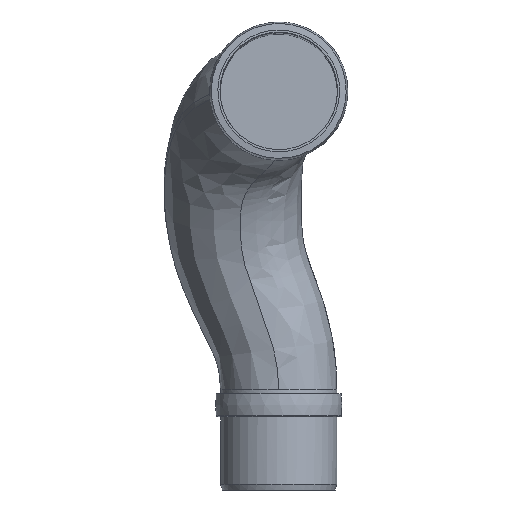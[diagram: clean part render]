
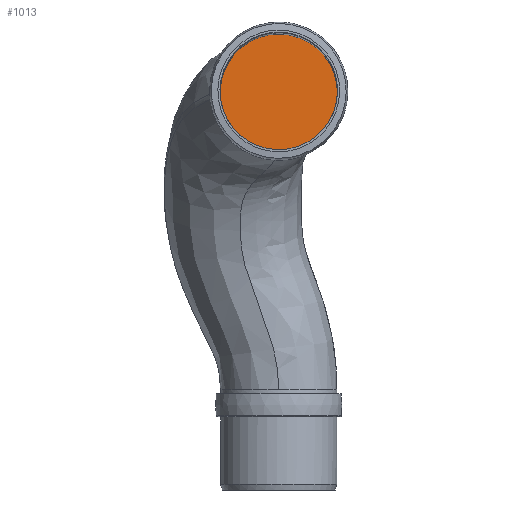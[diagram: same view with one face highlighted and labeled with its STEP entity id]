
A CAD part, front view. The second image highlights one B-rep face of the part: STEP entity #1013.
In plain terms, the highlighted planar face has unit normal (0, -1, 0.026).
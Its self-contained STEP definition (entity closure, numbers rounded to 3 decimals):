
#43=PLANE('',#1106);
#73=CIRCLE('',#1107,55.5);
#150=FACE_OUTER_BOUND('',#211,.T.);
#211=EDGE_LOOP('',(#767));
#437=VERTEX_POINT('',#6654);
#564=EDGE_CURVE('',#437,#437,#73,.T.);
#767=ORIENTED_EDGE('',*,*,#564,.F.);
#1013=ADVANCED_FACE('',(#150),#43,.F.);
#1106=AXIS2_PLACEMENT_3D('',#6653,#1240,#1241);
#1107=AXIS2_PLACEMENT_3D('',#6655,#1242,#1243);
#1240=DIRECTION('center_axis',(0.,1.,-0.026));
#1241=DIRECTION('ref_axis',(0.,0.026,1.));
#1242=DIRECTION('center_axis',(0.,1.,-0.026));
#1243=DIRECTION('ref_axis',(0.479,-0.023,-0.877));
#6653=CARTESIAN_POINT('Origin',(0.,-96.75,
2.533));
#6654=CARTESIAN_POINT('',(-26.608,-95.475,51.223));
#6655=CARTESIAN_POINT('Origin',(0.,-96.75,
2.533));
